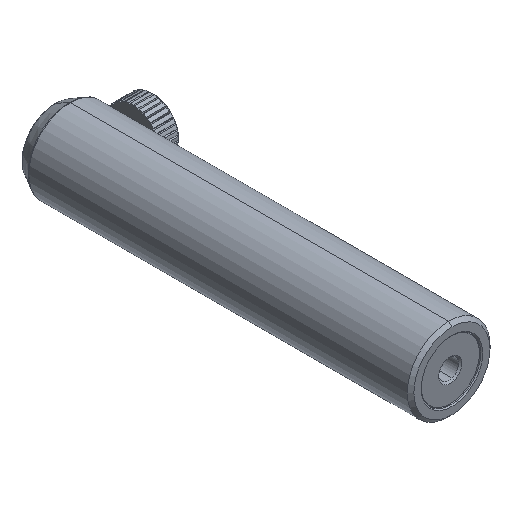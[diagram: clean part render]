
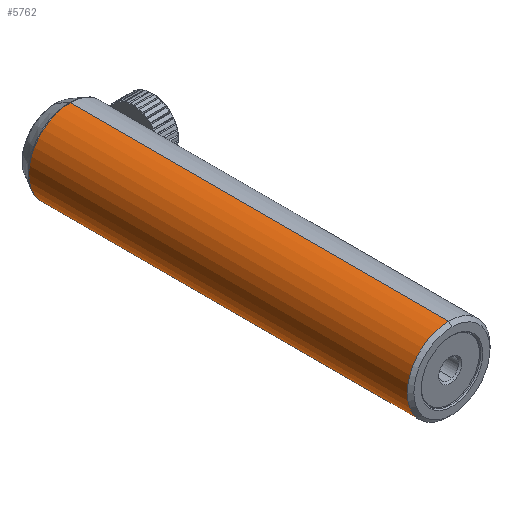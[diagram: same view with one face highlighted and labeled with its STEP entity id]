
A CAD part, isometric view. The second image highlights one B-rep face of the part: STEP entity #5762.
In plain terms, the highlighted cylindrical face has radius 12.5 mm (diameter 25 mm), a partial arc.
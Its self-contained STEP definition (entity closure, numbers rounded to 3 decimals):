
#559 = VERTEX_POINT ( 'NONE', #8587 ) ;
#803 = CYLINDRICAL_SURFACE ( 'NONE', #5891, 12.5 ) ;
#842 = CARTESIAN_POINT ( 'NONE',  ( -4.383, -6.112, -19.396 ) ) ;
#895 = DIRECTION ( 'NONE',  ( 0., 0., 1. ) ) ;
#1182 = AXIS2_PLACEMENT_3D ( 'NONE', #3634, #6419, #895 ) ;
#1721 = DIRECTION ( 'NONE',  ( 0., 1., 0. ) ) ;
#1753 = VECTOR ( 'NONE', #8564, 1000. ) ;
#2103 = DIRECTION ( 'NONE',  ( 0., 0., -1. ) ) ;
#2344 = CARTESIAN_POINT ( 'NONE',  ( -4.383, 112.888, 5.604 ) ) ;
#2414 = VERTEX_POINT ( 'NONE', #842 ) ;
#2684 = ORIENTED_EDGE ( 'NONE', *, *, #8501, .F. ) ;
#2813 = ORIENTED_EDGE ( 'NONE', *, *, #8031, .T. ) ;
#2936 = ORIENTED_EDGE ( 'NONE', *, *, #8135, .T. ) ;
#3634 = CARTESIAN_POINT ( 'NONE',  ( -4.383, 108.258, -6.896 ) ) ;
#3798 = LINE ( 'NONE', #5803, #8841 ) ;
#4375 = VERTEX_POINT ( 'NONE', #4644 ) ;
#4380 = LINE ( 'NONE', #2344, #1753 ) ;
#4644 = CARTESIAN_POINT ( 'NONE',  ( -4.383, 108.258, 5.604 ) ) ;
#4741 = VERTEX_POINT ( 'NONE', #6601 ) ;
#5011 = CIRCLE ( 'NONE', #1182, 12.5 ) ;
#5123 = DIRECTION ( 'NONE',  ( 0., 0., 1. ) ) ;
#5762 = ADVANCED_FACE ( 'NONE', ( #8452 ), #803, .T. ) ;
#5803 = CARTESIAN_POINT ( 'NONE',  ( -4.383, 112.888, -19.396 ) ) ;
#5891 = AXIS2_PLACEMENT_3D ( 'NONE', #6231, #6964, #2103 ) ;
#6117 = EDGE_CURVE ( 'NONE', #4741, #2414, #3798, .T. ) ;
#6231 = CARTESIAN_POINT ( 'NONE',  ( -4.383, 112.888, -6.896 ) ) ;
#6419 = DIRECTION ( 'NONE',  ( 0., -1., 0. ) ) ;
#6601 = CARTESIAN_POINT ( 'NONE',  ( -4.383, 108.258, -19.396 ) ) ;
#6759 = AXIS2_PLACEMENT_3D ( 'NONE', #8754, #1721, #5123 ) ;
#6964 = DIRECTION ( 'NONE',  ( 0., -1., 0. ) ) ;
#7185 = DIRECTION ( 'NONE',  ( 0., -1., 0. ) ) ;
#7340 = CIRCLE ( 'NONE', #6759, 12.5 ) ;
#7918 = ORIENTED_EDGE ( 'NONE', *, *, #6117, .T. ) ;
#8031 = EDGE_CURVE ( 'NONE', #4375, #4741, #5011, .T. ) ;
#8135 = EDGE_CURVE ( 'NONE', #2414, #559, #7340, .T. ) ;
#8452 = FACE_OUTER_BOUND ( 'NONE', #9004, .T. ) ;
#8501 = EDGE_CURVE ( 'NONE', #4375, #559, #4380, .T. ) ;
#8564 = DIRECTION ( 'NONE',  ( 0., -1., 0. ) ) ;
#8587 = CARTESIAN_POINT ( 'NONE',  ( -4.383, -6.112, 5.604 ) ) ;
#8754 = CARTESIAN_POINT ( 'NONE',  ( -4.383, -6.112, -6.896 ) ) ;
#8841 = VECTOR ( 'NONE', #7185, 1000. ) ;
#9004 = EDGE_LOOP ( 'NONE', ( #2684, #2813, #7918, #2936 ) ) ;
